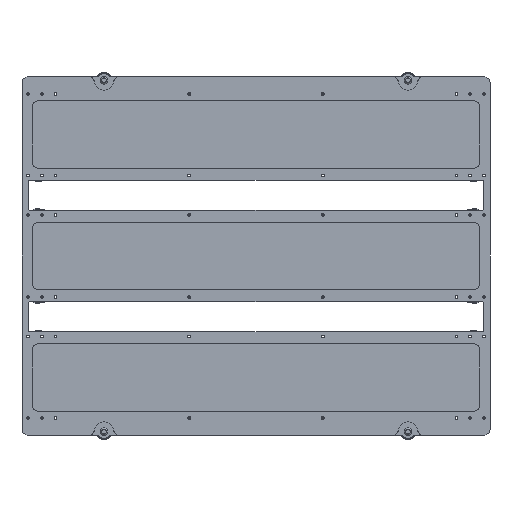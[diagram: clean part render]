
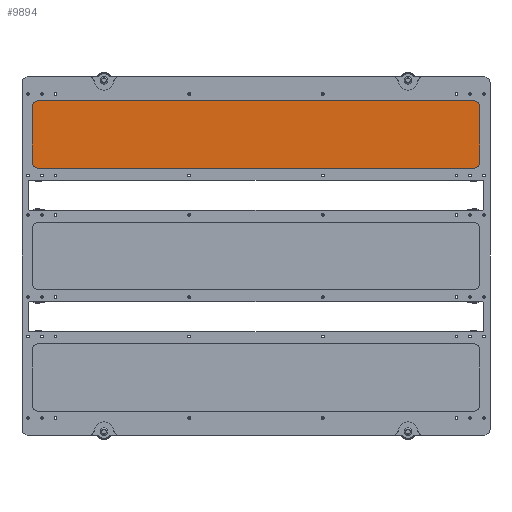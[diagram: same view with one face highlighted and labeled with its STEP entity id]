
A CAD part, front view. The second image highlights one B-rep face of the part: STEP entity #9894.
In plain terms, the highlighted planar face has unit normal (0, -1, 0).
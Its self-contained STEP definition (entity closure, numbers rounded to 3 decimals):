
#9439=CARTESIAN_POINT('',(174.505,0.,-24.5));
#9440=DIRECTION('',(0.,1.,0.));
#9441=DIRECTION('',(0.196,0.,-0.981));
#9442=AXIS2_PLACEMENT_3D('',#9439,#9440,#9441);
#9447=DIRECTION('',(-1.,0.,0.));
#9448=VECTOR('',#9447,349.01);
#9449=CARTESIAN_POINT('',(174.505,0.,-29.5));
#9450=LINE('',#9449,#9448);
#9454=CARTESIAN_POINT('',(-174.505,0.,-24.5));
#9455=DIRECTION('',(0.,1.,0.));
#9456=DIRECTION('',(0.,0.,-1.));
#9457=AXIS2_PLACEMENT_3D('',#9454,#9455,#9456);
#9462=DIRECTION('',(0.981,0.,-0.196));
#9463=VECTOR('',#9462,10.703);
#9464=CARTESIAN_POINT('',(-185.981,0.,-27.304));
#9465=LINE('',#9464,#9463);
#9469=CARTESIAN_POINT('',(-185.,0.,-22.401));
#9470=DIRECTION('',(0.,-1.,0.));
#9471=DIRECTION('',(-1.,0.,0.));
#9472=AXIS2_PLACEMENT_3D('',#9469,#9470,#9471);
#9477=DIRECTION('',(0.,0.,1.));
#9478=VECTOR('',#9477,44.802);
#9479=CARTESIAN_POINT('',(-190.,0.,-22.401));
#9480=LINE('',#9479,#9478);
#9484=CARTESIAN_POINT('',(-185.,0.,22.401));
#9485=DIRECTION('',(0.,-1.,0.));
#9486=DIRECTION('',(-0.196,0.,0.981));
#9487=AXIS2_PLACEMENT_3D('',#9484,#9485,#9486);
#9492=DIRECTION('',(-0.981,0.,-0.196));
#9493=VECTOR('',#9492,10.703);
#9494=CARTESIAN_POINT('',(-175.485,0.,29.403));
#9495=LINE('',#9494,#9493);
#9499=CARTESIAN_POINT('',(-174.505,0.,24.5));
#9500=DIRECTION('',(0.,1.,0.));
#9501=DIRECTION('',(-0.196,0.,0.981));
#9502=AXIS2_PLACEMENT_3D('',#9499,#9500,#9501);
#9507=DIRECTION('',(1.,0.,0.));
#9508=VECTOR('',#9507,349.01);
#9509=CARTESIAN_POINT('',(-174.505,0.,29.5));
#9510=LINE('',#9509,#9508);
#9514=CARTESIAN_POINT('',(174.505,0.,24.5));
#9515=DIRECTION('',(0.,1.,0.));
#9516=DIRECTION('',(0.,0.,1.));
#9517=AXIS2_PLACEMENT_3D('',#9514,#9515,#9516);
#9522=DIRECTION('',(-0.981,0.,0.196));
#9523=VECTOR('',#9522,10.703);
#9524=CARTESIAN_POINT('',(185.981,0.,27.304));
#9525=LINE('',#9524,#9523);
#9529=CARTESIAN_POINT('',(185.,0.,22.401));
#9530=DIRECTION('',(0.,-1.,0.));
#9531=DIRECTION('',(1.,0.,0.));
#9532=AXIS2_PLACEMENT_3D('',#9529,#9530,#9531);
#9537=DIRECTION('',(0.,0.,-1.));
#9538=VECTOR('',#9537,44.802);
#9539=CARTESIAN_POINT('',(190.,0.,22.401));
#9540=LINE('',#9539,#9538);
#9544=CARTESIAN_POINT('',(185.,0.,-22.401));
#9545=DIRECTION('',(0.,-1.,0.));
#9546=DIRECTION('',(0.196,0.,-0.981));
#9547=AXIS2_PLACEMENT_3D('',#9544,#9545,#9546);
#9552=DIRECTION('',(0.981,0.,0.196));
#9553=VECTOR('',#9552,10.703);
#9554=CARTESIAN_POINT('',(175.485,0.,-29.403));
#9555=LINE('',#9554,#9553);
#9792=CARTESIAN_POINT('',(174.505,0.,-29.5));
#9794=VERTEX_POINT('',#9792);
#9795=CARTESIAN_POINT('',(175.485,0.,-29.403));
#9796=VERTEX_POINT('',#9795);
#9803=CARTESIAN_POINT('',(185.981,0.,-27.304));
#9804=VERTEX_POINT('',#9803);
#9805=CARTESIAN_POINT('',(190.,0.,-22.401));
#9806=VERTEX_POINT('',#9805);
#9807=CARTESIAN_POINT('',(190.,0.,22.401));
#9808=CARTESIAN_POINT('',(185.981,0.,27.304));
#9809=VERTEX_POINT('',#9807);
#9810=VERTEX_POINT('',#9808);
#9815=CARTESIAN_POINT('',(174.505,0.,29.5));
#9817=VERTEX_POINT('',#9815);
#9821=CARTESIAN_POINT('',(175.485,0.,29.403));
#9822=VERTEX_POINT('',#9821);
#9823=CARTESIAN_POINT('',(-174.505,0.,-29.5));
#9825=VERTEX_POINT('',#9823);
#9829=CARTESIAN_POINT('',(-175.485,0.,-29.403));
#9830=VERTEX_POINT('',#9829);
#9831=CARTESIAN_POINT('',(-190.,0.,-22.401));
#9832=CARTESIAN_POINT('',(-185.981,0.,-27.304));
#9833=VERTEX_POINT('',#9831);
#9834=VERTEX_POINT('',#9832);
#9843=CARTESIAN_POINT('',(-185.981,0.,27.304));
#9844=VERTEX_POINT('',#9843);
#9845=CARTESIAN_POINT('',(-190.,0.,22.401));
#9846=VERTEX_POINT('',#9845);
#9848=CARTESIAN_POINT('',(-174.505,0.,29.5));
#9850=VERTEX_POINT('',#9848);
#9851=CARTESIAN_POINT('',(-175.485,0.,29.403));
#9852=VERTEX_POINT('',#9851);
#9855=CARTESIAN_POINT('',(0.,0.,0.));
#9856=DIRECTION('',(0.,1.,0.));
#9857=DIRECTION('',(0.,0.,-1.));
#9858=AXIS2_PLACEMENT_3D('',#9855,#9856,#9857);
#9859=PLANE('',#9858);
#9861=ORIENTED_EDGE('',*,*,#9860,.T.);
#9863=ORIENTED_EDGE('',*,*,#9862,.T.);
#9865=ORIENTED_EDGE('',*,*,#9864,.T.);
#9867=ORIENTED_EDGE('',*,*,#9866,.F.);
#9869=ORIENTED_EDGE('',*,*,#9868,.F.);
#9871=ORIENTED_EDGE('',*,*,#9870,.T.);
#9873=ORIENTED_EDGE('',*,*,#9872,.F.);
#9875=ORIENTED_EDGE('',*,*,#9874,.F.);
#9877=ORIENTED_EDGE('',*,*,#9876,.T.);
#9879=ORIENTED_EDGE('',*,*,#9878,.T.);
#9881=ORIENTED_EDGE('',*,*,#9880,.T.);
#9883=ORIENTED_EDGE('',*,*,#9882,.F.);
#9885=ORIENTED_EDGE('',*,*,#9884,.F.);
#9887=ORIENTED_EDGE('',*,*,#9886,.T.);
#9889=ORIENTED_EDGE('',*,*,#9888,.F.);
#9891=ORIENTED_EDGE('',*,*,#9890,.F.);
#9892=EDGE_LOOP('',(#9861,#9863,#9865,#9867,#9869,#9871,#9873,#9875,#9877,#9879,
#9881,#9883,#9885,#9887,#9889,#9891));
#9893=FACE_OUTER_BOUND('',#9892,.F.);
#9443=CIRCLE('',#9442,5.);
#9458=CIRCLE('',#9457,5.);
#9473=CIRCLE('',#9472,5.);
#9488=CIRCLE('',#9487,5.);
#9503=CIRCLE('',#9502,5.);
#9518=CIRCLE('',#9517,5.);
#9533=CIRCLE('',#9532,5.);
#9548=CIRCLE('',#9547,5.);
#9860=EDGE_CURVE('',#9796,#9794,#9443,.T.);
#9862=EDGE_CURVE('',#9794,#9825,#9450,.T.);
#9864=EDGE_CURVE('',#9825,#9830,#9458,.T.);
#9866=EDGE_CURVE('',#9834,#9830,#9465,.T.);
#9868=EDGE_CURVE('',#9833,#9834,#9473,.T.);
#9870=EDGE_CURVE('',#9833,#9846,#9480,.T.);
#9872=EDGE_CURVE('',#9844,#9846,#9488,.T.);
#9874=EDGE_CURVE('',#9852,#9844,#9495,.T.);
#9876=EDGE_CURVE('',#9852,#9850,#9503,.T.);
#9878=EDGE_CURVE('',#9850,#9817,#9510,.T.);
#9880=EDGE_CURVE('',#9817,#9822,#9518,.T.);
#9882=EDGE_CURVE('',#9810,#9822,#9525,.T.);
#9884=EDGE_CURVE('',#9809,#9810,#9533,.T.);
#9886=EDGE_CURVE('',#9809,#9806,#9540,.T.);
#9888=EDGE_CURVE('',#9804,#9806,#9548,.T.);
#9890=EDGE_CURVE('',#9796,#9804,#9555,.T.);
#9894=ADVANCED_FACE('',(#9893),#9859,.F.);
